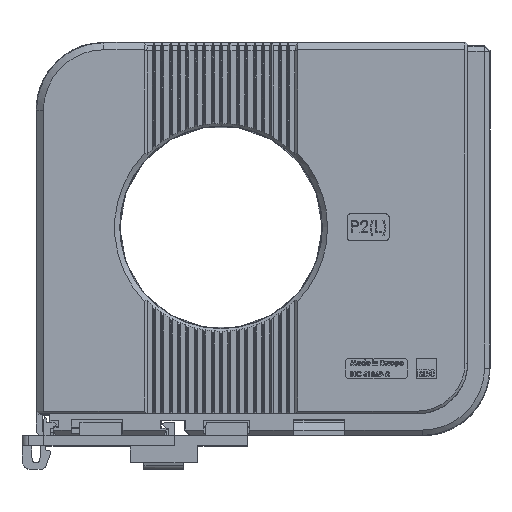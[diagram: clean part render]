
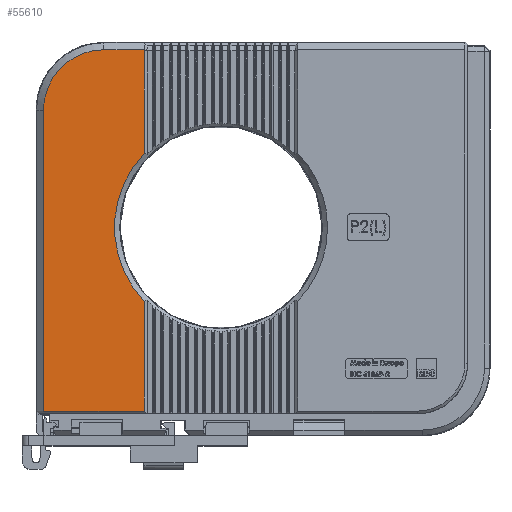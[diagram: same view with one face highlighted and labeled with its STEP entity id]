
A CAD part, top view. The second image highlights one B-rep face of the part: STEP entity #55610.
In plain terms, the highlighted planar face has unit normal (0, 0, 1).
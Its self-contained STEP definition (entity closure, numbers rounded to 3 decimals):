
#216 = VERTEX_POINT ( 'NONE', #36493 ) ;
#1880 = VERTEX_POINT ( 'NONE', #15634 ) ;
#2225 = CARTESIAN_POINT ( 'NONE',  ( -45.799, 49.117, 18.5 ) ) ;
#2611 = ORIENTED_EDGE ( 'NONE', *, *, #40237, .T. ) ;
#3159 = LINE ( 'NONE', #51971, #13732 ) ;
#3578 = VERTEX_POINT ( 'NONE', #15009 ) ;
#3849 = ORIENTED_EDGE ( 'NONE', *, *, #19363, .T. ) ;
#3877 = AXIS2_PLACEMENT_3D ( 'NONE', #47443, #20469, #51983 ) ;
#5324 = AXIS2_PLACEMENT_3D ( 'NONE', #46369, #19384, #50910 ) ;
#6759 = CARTESIAN_POINT ( 'NONE',  ( -48.369, 46.71, 18.5 ) ) ;
#7127 = ORIENTED_EDGE ( 'NONE', *, *, #43322, .T. ) ;
#7979 = DIRECTION ( 'NONE',  ( 0.825, -0.566, 0. ) ) ;
#8096 = LINE ( 'NONE', #50704, #30659 ) ;
#9857 = ORIENTED_EDGE ( 'NONE', *, *, #44290, .T. ) ;
#10268 = EDGE_CURVE ( 'NONE', #15935, #15059, #54876, .T. ) ;
#10308 = CARTESIAN_POINT ( 'NONE',  ( -22.8, 21.987, 18.5 ) ) ;
#11259 = CARTESIAN_POINT ( 'NONE',  ( -22.8, 52.79, 18.5 ) ) ;
#11295 = CARTESIAN_POINT ( 'NONE',  ( -50.421, 43.848, 18.5 ) ) ;
#11398 = DIRECTION ( 'NONE',  ( 0., 1., 0. ) ) ;
#11465 = CARTESIAN_POINT ( 'NONE',  ( -22.8, 0., 18.5 ) ) ;
#11677 = ORIENTED_EDGE ( 'NONE', *, *, #32239, .T. ) ;
#11949 = VECTOR ( 'NONE', #38084, 1000. ) ;
#12515 = CARTESIAN_POINT ( 'NONE',  ( -53.133, -54.447, 18.5 ) ) ;
#13732 = VECTOR ( 'NONE', #24975, 1000. ) ;
#15009 = CARTESIAN_POINT ( 'NONE',  ( -52.79, -54.682, 18.5 ) ) ;
#15059 = VERTEX_POINT ( 'NONE', #51912 ) ;
#15634 = CARTESIAN_POINT ( 'NONE',  ( -52.79, -54.683, 18.5 ) ) ;
#15652 = CARTESIAN_POINT ( 'NONE',  ( -36.037, 52.79, 18.5 ) ) ;
#15819 = ORIENTED_EDGE ( 'NONE', *, *, #54188, .T. ) ;
#15843 = CARTESIAN_POINT ( 'NONE',  ( -51.874, 40.64, 18.5 ) ) ;
#15935 = VERTEX_POINT ( 'NONE', #29419 ) ;
#19363 = EDGE_CURVE ( 'NONE', #1880, #15935, #53558, .T. ) ;
#19384 = DIRECTION ( 'NONE',  ( 0., 0., -1. ) ) ;
#19414 = B_SPLINE_CURVE_WITH_KNOTS ( 'NONE', 3,
 ( #28828, #15652, #20165, #51680, #24703, #56179, #29208, #2225, #33768, #6759, #38285, #11295, #42797, #15843, #47346, #20367, #51890, #24905 ),
 .UNSPECIFIED., .F., .F.,
 ( 4, 2, 2, 2, 2, 2, 2, 2, 4 ),
 ( 0., 0.004, 0.007, 0.011, 0.014, 0.018, 0.021, 0.025, 0.028 ),
 .UNSPECIFIED. ) ;
#20165 = CARTESIAN_POINT ( 'NONE',  ( -37.21, 52.674, 18.5 ) ) ;
#20367 = CARTESIAN_POINT ( 'NONE',  ( -52.674, 37.21, 18.5 ) ) ;
#20469 = DIRECTION ( 'NONE',  ( 0., 0., -1. ) ) ;
#20480 = CARTESIAN_POINT ( 'NONE',  ( -22.8, 0., 18.5 ) ) ;
#24490 = CARTESIAN_POINT ( 'NONE',  ( 0., -54.683, 18.5 ) ) ;
#24703 = CARTESIAN_POINT ( 'NONE',  ( -40.64, 51.874, 18.5 ) ) ;
#24767 = LINE ( 'NONE', #20480, #47304 ) ;
#24905 = CARTESIAN_POINT ( 'NONE',  ( -52.79, 34.863, 18.5 ) ) ;
#24975 = DIRECTION ( 'NONE',  ( 0., -1., 0. ) ) ;
#24997 = DIRECTION ( 'NONE',  ( 0., 1., 0. ) ) ;
#27636 = VERTEX_POINT ( 'NONE', #11259 ) ;
#28234 = DIRECTION ( 'NONE',  ( -1., 0., 0. ) ) ;
#28828 = CARTESIAN_POINT ( 'NONE',  ( -34.863, 52.79, 18.5 ) ) ;
#29208 = CARTESIAN_POINT ( 'NONE',  ( -43.848, 50.421, 18.5 ) ) ;
#29419 = CARTESIAN_POINT ( 'NONE',  ( -22.8, -54.683, 18.5 ) ) ;
#29529 = VECTOR ( 'NONE', #11398, 1000. ) ;
#30659 = VECTOR ( 'NONE', #28234, 1000. ) ;
#31542 = ORIENTED_EDGE ( 'NONE', *, *, #38598, .T. ) ;
#32239 = EDGE_CURVE ( 'NONE', #27636, #216, #8096, .T. ) ;
#33327 = ORIENTED_EDGE ( 'NONE', *, *, #10268, .T. ) ;
#33768 = CARTESIAN_POINT ( 'NONE',  ( -46.71, 48.369, 18.5 ) ) ;
#33871 = PLANE ( 'NONE',  #3877 ) ;
#36493 = CARTESIAN_POINT ( 'NONE',  ( -34.863, 52.79, 18.5 ) ) ;
#37356 = FACE_OUTER_BOUND ( 'NONE', #50907, .T. ) ;
#37975 = VERTEX_POINT ( 'NONE', #10308 ) ;
#38084 = DIRECTION ( 'NONE',  ( 1., 0., 0. ) ) ;
#38285 = CARTESIAN_POINT ( 'NONE',  ( -49.117, 45.799, 18.5 ) ) ;
#38598 = EDGE_CURVE ( 'NONE', #3578, #1880, #50253, .T. ) ;
#39676 = VECTOR ( 'NONE', #7979, 1000. ) ;
#40237 = EDGE_CURVE ( 'NONE', #15059, #37975, #52905, .T. ) ;
#42797 = CARTESIAN_POINT ( 'NONE',  ( -50.976, 42.808, 18.5 ) ) ;
#43322 = EDGE_CURVE ( 'NONE', #216, #52145, #19414, .T. ) ;
#44290 = EDGE_CURVE ( 'NONE', #52145, #3578, #3159, .T. ) ;
#46369 = CARTESIAN_POINT ( 'NONE',  ( 0., 0., 18.5 ) ) ;
#47304 = VECTOR ( 'NONE', #24997, 1000. ) ;
#47346 = CARTESIAN_POINT ( 'NONE',  ( -52.216, 39.512, 18.5 ) ) ;
#47443 = CARTESIAN_POINT ( 'NONE',  ( 0., 0., 18.5 ) ) ;
#48821 = CARTESIAN_POINT ( 'NONE',  ( -52.79, 34.863, 18.5 ) ) ;
#50253 = LINE ( 'NONE', #12515, #39676 ) ;
#50704 = CARTESIAN_POINT ( 'NONE',  ( 0., 52.79, 18.5 ) ) ;
#50907 = EDGE_LOOP ( 'NONE', ( #3849, #33327, #2611, #15819, #11677, #7127, #9857, #31542 ) ) ;
#50910 = DIRECTION ( 'NONE',  ( -1., 0., 0. ) ) ;
#51680 = CARTESIAN_POINT ( 'NONE',  ( -39.512, 52.216, 18.5 ) ) ;
#51890 = CARTESIAN_POINT ( 'NONE',  ( -52.79, 36.037, 18.5 ) ) ;
#51912 = CARTESIAN_POINT ( 'NONE',  ( -22.8, -21.987, 18.5 ) ) ;
#51971 = CARTESIAN_POINT ( 'NONE',  ( -52.79, 0., 18.5 ) ) ;
#51983 = DIRECTION ( 'NONE',  ( -1., 0., 0. ) ) ;
#52145 = VERTEX_POINT ( 'NONE', #48821 ) ;
#52905 = CIRCLE ( 'NONE', #5324, 31.675 ) ;
#53558 = LINE ( 'NONE', #24490, #11949 ) ;
#54188 = EDGE_CURVE ( 'NONE', #37975, #27636, #24767, .T. ) ;
#54876 = LINE ( 'NONE', #11465, #29529 ) ;
#55610 = ADVANCED_FACE ( 'NONE', ( #37356 ), #33871, .F. ) ;
#56179 = CARTESIAN_POINT ( 'NONE',  ( -42.808, 50.976, 18.5 ) ) ;
